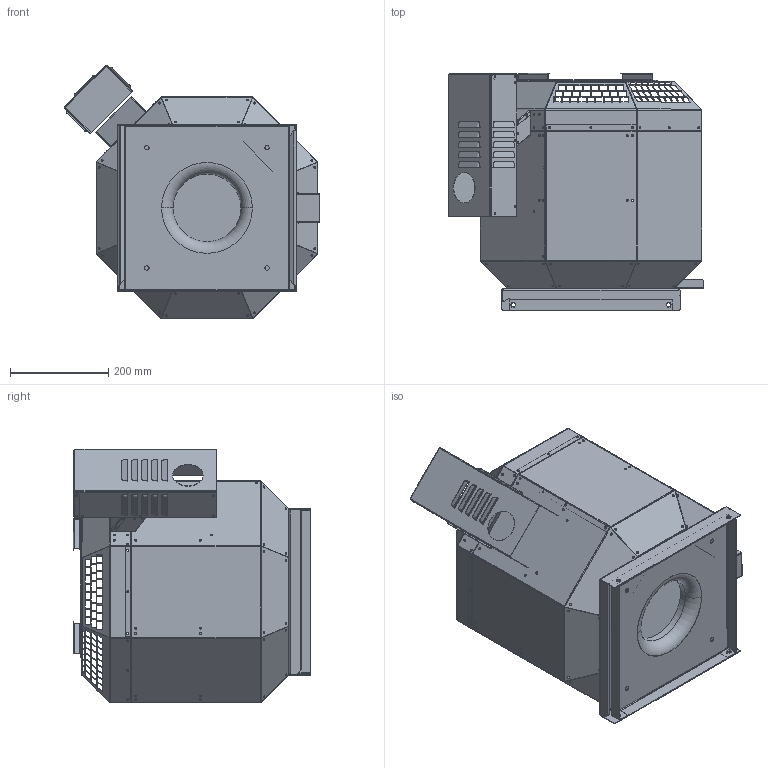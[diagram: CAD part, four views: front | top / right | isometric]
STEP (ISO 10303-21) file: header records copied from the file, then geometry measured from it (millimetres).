
FILE_DESCRIPTION (( 'STEP AP203' ), '1' );
FILE_NAME ('142173-00_DVN225D2F430_step.step', '2018-06-27T06:52:28', ( '' ), ( '' ), 'SwSTEP 2.0', 'SolidWorks 2017', '' );
FILE_SCHEMA (( 'CONFIG_CONTROL_DESIGN' ));
Length unit declared in the file: millimetre
Products named in the file (1): 142173-00_DVN225D2F430_step
Bounding box: 520.61 x 484.07 x 516.77 mm (x, y, z)
Surface area: 2123250.4 mm2 (no closed solid volume)
Topology: 0 solids, 34 shells, 1568 faces, 6574 edges, 4706 vertices
Faces by surface type: plane 1017, cylinder 449, bspline 100, torus 2
Entity records: 86139 total; most frequent: CARTESIAN_POINT 32609, DIRECTION 10297, ORIENTED_EDGE 9796, EDGE_CURVE 6574, VECTOR 4745, LINE 4745, VERTEX_POINT 4706, AXIS2_PLACEMENT_3D 2776
